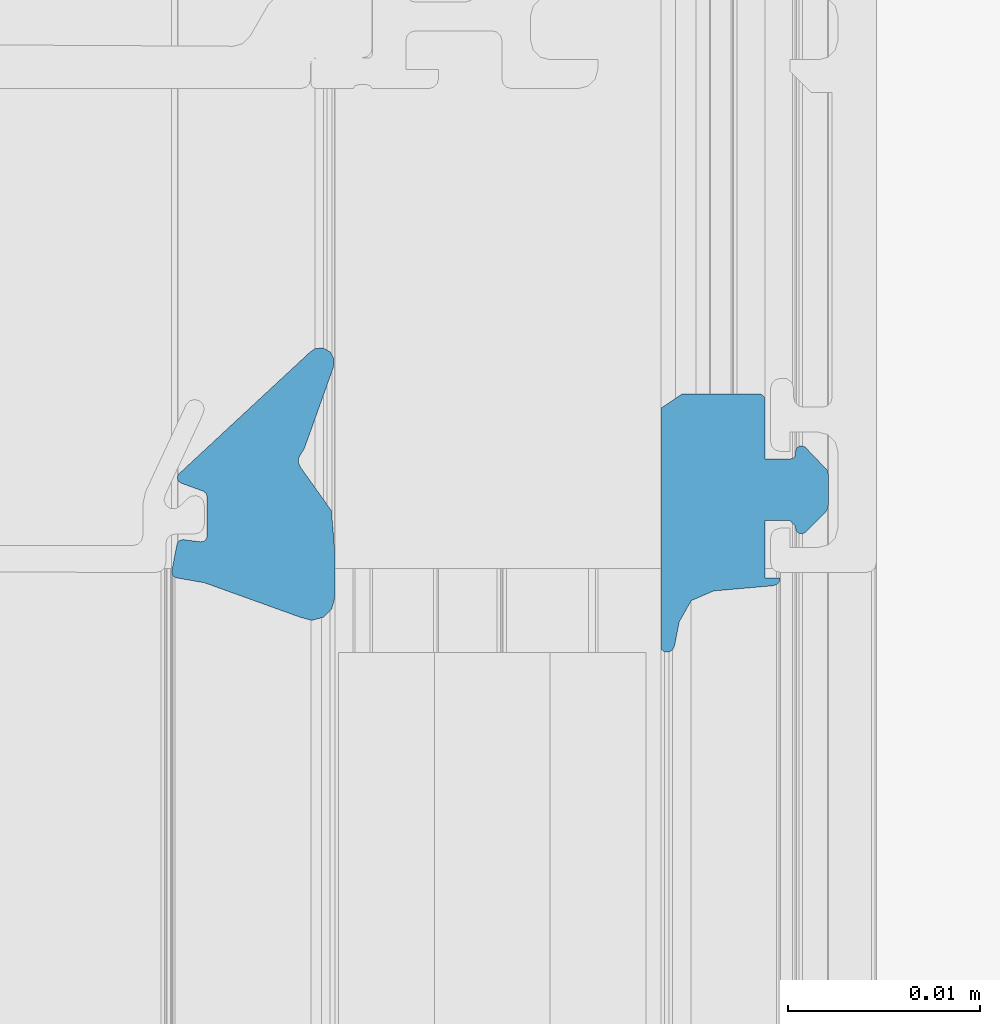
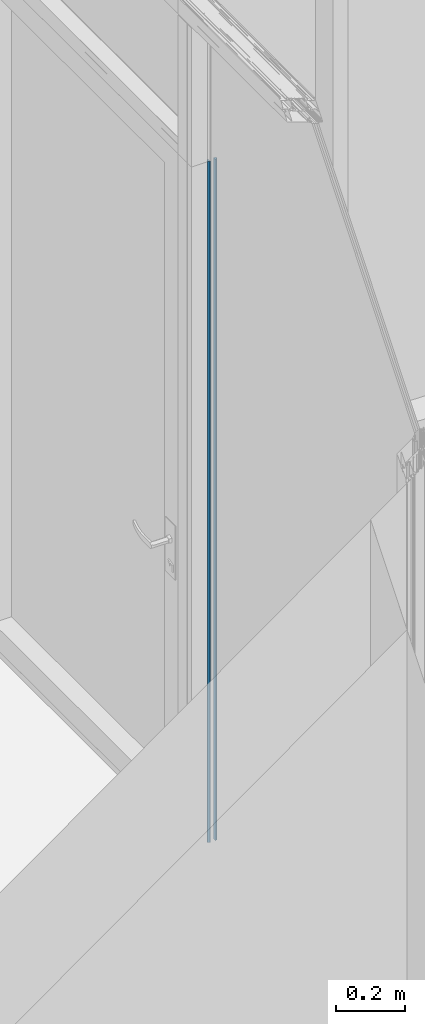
# One storey, part 16 of 62: 1 building element part, 2 elements without a shape of their own.
"""IFC2X3 building model written with IfcOpenShell, lengths in millimetres."""

from ifc_helpers import new_model, entity, si_unit, converted_unit, derived_unit, money_unit, direction, frame, origin_with_axes, place, context, subcontext, project, spatial, faceted_brep, source, transform, mapped, material, type_object, element, aggregate, save


model = new_model("IFC2X3")

# Units and contexts
model_context = context("Model", 3, precision=0.01, world=origin_with_axes(), true_north=direction((0.0, 1.0)))
body_context = subcontext(model_context, "Body", "Model", "MODEL_VIEW")
ifc_project = project(units=[si_unit("LENGTHUNIT", "METRE", prefix="MILLI"), si_unit("AREAUNIT", "SQUARE_METRE"), si_unit("VOLUMEUNIT", "CUBIC_METRE"), converted_unit("PLANEANGLEUNIT", "DEGREE", entity("IfcPlaneAngleMeasure", 0.0174532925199), si_unit("PLANEANGLEUNIT", "RADIAN"), dimensions=[0, 0, 0, 0, 0, 0, 0]), si_unit("SOLIDANGLEUNIT", "STERADIAN"), money_unit("EUR"), converted_unit("TIMEUNIT", "Year", entity("IfcTimeMeasure", 31556926.0), si_unit("TIMEUNIT", "SECOND"), dimensions=[0, 0, 1, 0, 0, 0, 0]), si_unit("MASSUNIT", "GRAM", prefix="KILO"), si_unit("THERMODYNAMICTEMPERATUREUNIT", "DEGREE_CELSIUS"), si_unit("LUMINOUSINTENSITYUNIT", "LUMEN"), si_unit("ENERGYUNIT", "JOULE", prefix="MEGA"), derived_unit("THERMALCONDUCTANCEUNIT", [(si_unit("POWERUNIT", "WATT"), 1), (si_unit("LENGTHUNIT", "METRE"), -1), (si_unit("THERMODYNAMICTEMPERATUREUNIT", "KELVIN"), -1)]), derived_unit("SPECIFICHEATCAPACITYUNIT", [(si_unit("ENERGYUNIT", "JOULE"), 1), (si_unit("MASSUNIT", "GRAM", prefix="KILO"), -1), (si_unit("THERMODYNAMICTEMPERATUREUNIT", "KELVIN"), -1)]), derived_unit("MASSDENSITYUNIT", [(si_unit("MASSUNIT", "GRAM", prefix="KILO"), 1), (si_unit("VOLUMEUNIT", "CUBIC_METRE"), -1)])], contexts=[model_context])

# Site, building, storey
site_placement = place(None, origin_with_axes())
site = spatial("IfcSite", under=ifc_project, at=site_placement, Name="Puškini 31, Narva", CompositionType="ELEMENT")
building_placement = place(site_placement, origin_with_axes())
building = spatial("IfcBuilding", under=site, at=building_placement, Name="Narva Riigigümnaasium", CompositionType="ELEMENT")
storey_placement = place(building_placement, frame((0.0, 0.0, 660.0), z_axis=(0.0, 0.0, 1.0), x_axis=(1.0, 0.0, 0.0)))
storey = spatial("IfcBuildingStorey", under=building, at=storey_placement, Name="2.korrus +0.66", CompositionType="ELEMENT", Elevation=660.0)

# Curtain wall, member, building element part
curtain_wall_type = type_object("IfcCurtainWallType", Name="Curtain Wall Type", PredefinedType="NOTDEFINED")
curtain_wall_placement = place(storey_placement, frame((34855.0128096, 223200.000065, -2.45869393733e-05), z_axis=(0.0, 0.0, 1.0), x_axis=(1.0, 0.0, 0.0)))
curtain_wall = element("IfcCurtainWall", 1, at=curtain_wall_placement, inside=storey, type_object=curtain_wall_type, Name="G-SKLF-50")
member_type = type_object("IfcMemberType", Name="82 x 45", PredefinedType="MULLION")
member_placement = place(curtain_wall_placement, frame((-0.00257308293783, -599.999999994, 0.0), z_axis=(0.0, 0.0, 1.0), x_axis=(4.28847155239e-06, 0.999999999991, 0.0)))
member = element("IfcMember", 2, at=member_placement, type_object=member_type, Name="G-SKLF-50-raam", ObjectType="MULLION")
aggregate(curtain_wall, [member])
ifc_material = material(Name="Membraan - Veekindel")
shared_shape = source(origin_with_axes(), body_context, "Body", "Brep", [
    faceted_brep([(72.7204882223, 15.0100099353, 0.0), (72.7204882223, 15.0100099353, 2400.00002459), (74.9898926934, 16.6230552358, 2400.00002459), (74.9898926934, 16.6230552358, 0.0), (72.5011668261, 14.8999349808, 0.0), (72.5011668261, 14.8999349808, 2400.00002459), (72.2558878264, 14.9074571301, 2400.00002459), (72.0437237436, 15.0307647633, 2400.00002459), (71.7536994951, 15.2121692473, 2400.00002459), (67.4982927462, 16.7341218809, 2400.00002459), (67.0740702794, 16.7580150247, 2400.00002459), (66.7049453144, 16.5475813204, 2400.00002459), (66.5093924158, 16.1703616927, 2400.00002459), (66.5501763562, 15.7474287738, 2400.00002459), (66.8142070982, 15.4145273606, 2400.00002459), (73.0645590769, 8.68581760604, 2400.00002459), (73.192689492, 8.61180126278, 2400.00002459), (73.3406152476, 8.60808734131, 2400.00002459), (73.4722984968, 8.67558063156, 2400.00002459), (73.5556584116, 8.79783833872, 2400.00002459), (73.9761212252, 9.95305042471, 2400.00002459), (74.0859560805, 10.096189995, 2400.00002459), (74.2580290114, 10.1504443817, 2400.00002459), (76.3123574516, 10.1504443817, 2400.00002459), (76.4731258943, 10.1037298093, 2400.00002459), (76.5838261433, 9.9781344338, 2400.00002459), (76.6099827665, 9.81277248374, 2400.00002459), (76.4957458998, 8.91024871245, 2400.00002459), (76.5142922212, 8.76250903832, 2400.00002459), (76.601588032, 8.64188392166, 2400.00002459), (76.7361285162, 8.57808865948, 2400.00002459), (78.1361285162, 8.30595622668, 2400.00002459), (78.2917480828, 8.3170330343, 2400.00002459), (78.4207620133, 8.4047573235, 2400.00002459), (78.4882789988, 8.54540440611, 2400.00002459), (78.7418652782, 10.0036443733, 2400.00002459), (80.5405112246, 15.001346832, 2400.00002459), (80.7012805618, 15.6006926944, 2400.00002459), (80.5411647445, 16.2002134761, 2400.00002459), (80.1029794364, 16.6395947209, 2400.00002459), (79.5038972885, 16.8013439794, 2400.00002459), (77.1927259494, 16.806401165, 2400.00002459), (77.1927259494, 16.806401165, 0.0), (79.5038972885, 16.8013439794, 0.0), (80.1029794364, 16.6395947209, 0.0), (80.5411647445, 16.2002134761, 0.0), (80.7012805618, 15.6006926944, 0.0), (80.5405112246, 15.001346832, 0.0), (78.7418652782, 10.0036443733, 0.0), (78.4882789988, 8.54540440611, 0.0), (78.4207620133, 8.4047573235, 0.0), (78.2917480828, 8.3170330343, 0.0), (78.1361285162, 8.30595622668, 0.0), (76.7361285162, 8.57808865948, 0.0), (76.601588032, 8.64188392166, 0.0), (76.5142922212, 8.76250903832, 0.0), (76.4957458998, 8.91024871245, 0.0), (76.6099827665, 9.81277248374, 0.0), (76.5838261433, 9.9781344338, 0.0), (76.4731258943, 10.1037298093, 0.0), (76.3123574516, 10.1504443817, 0.0), (74.2580290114, 10.1504443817, 0.0), (74.0859560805, 10.096189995, 0.0), (73.9761212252, 9.95305042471, 0.0), (73.5556584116, 8.79783833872, 0.0), (73.4722984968, 8.67558063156, 0.0), (73.3406152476, 8.60808734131, 0.0), (73.192689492, 8.61180126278, 0.0), (73.0645590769, 8.68581760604, 0.0), (66.8142070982, 15.4145273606, 0.0), (66.5501763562, 15.7474287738, 0.0), (66.5093924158, 16.1703616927, 0.0), (66.7049453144, 16.5475813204, 0.0), (67.0740702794, 16.7580150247, 0.0), (67.4982927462, 16.7341218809, 0.0), (71.7536994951, 15.2121692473, 0.0), (72.0437237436, 15.0307647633, 0.0), (72.2558878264, 14.9074571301, 0.0)], [[[0, 1, 2, 3]], [[4, 5, 1, 0]], [[1, 5, 6, 7, 8, 9, 10, 11, 12, 13, 14, 15, 16, 17, 18, 19, 20, 21, 22, 23, 24, 25, 26, 27, 28, 29, 30, 31, 32, 33, 34, 35, 36, 37, 38, 39, 40, 41, 2]], [[3, 2, 41, 42]], [[0, 3, 42, 43, 44, 45, 46, 47, 48, 49, 50, 51, 52, 53, 54, 55, 56, 57, 58, 59, 60, 61, 62, 63, 64, 65, 66, 67, 68, 69, 70, 71, 72, 73, 74, 75, 76, 77, 4]], [[77, 6, 5, 4]], [[76, 7, 6, 77]], [[75, 8, 7, 76]], [[74, 9, 8, 75]], [[73, 10, 9, 74]], [[72, 11, 10, 73]], [[71, 12, 11, 72]], [[70, 13, 12, 71]], [[69, 14, 13, 70]], [[68, 15, 14, 69]], [[67, 16, 15, 68]], [[66, 17, 16, 67]], [[65, 18, 17, 66]], [[64, 19, 18, 65]], [[63, 20, 19, 64]], [[62, 21, 20, 63]], [[61, 22, 21, 62]], [[60, 23, 22, 61]], [[59, 24, 23, 60]], [[58, 25, 24, 59]], [[57, 26, 25, 58]], [[56, 27, 26, 57]], [[55, 28, 27, 56]], [[54, 29, 28, 55]], [[53, 30, 29, 54]], [[52, 31, 30, 53]], [[51, 32, 31, 52]], [[50, 33, 32, 51]], [[49, 34, 33, 50]], [[48, 35, 34, 49]], [[47, 36, 35, 48]], [[46, 37, 36, 47]], [[45, 38, 37, 46]], [[44, 39, 38, 45]], [[43, 40, 39, 44]], [[42, 41, 40, 43]]]),
    faceted_brep([(71.6876987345, 41.3119145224, 0.0), (71.6876987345, 41.3119145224, 2400.00002459), (72.8904310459, 42.4618935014, 2400.00002459), (72.8904310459, 42.4618935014, 0.0), (71.6057623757, 41.1582990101, 0.0), (71.6057623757, 41.1582990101, 2400.00002459), (71.6229356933, 40.9850466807, 2400.00002459), (71.7334350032, 40.8505059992, 2400.00002459), (71.900046, 40.799988, 2400.00002459), (72.00004, 40.799988, 2400.00002459), (72.15004, 40.7597956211, 2400.00002459), (72.2598476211, 40.649988, 2400.00002459), (72.30004, 40.499988, 2400.00002459), (72.30004, 39.200012, 2400.00002459), (71.30004, 39.2000007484, 2400.00002459), (69.2000038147, 39.2000007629, 2400.00002459), (69.0500179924, 39.159812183, 2400.00002459), (68.9402207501, 39.0500149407, 2400.00002459), (68.9000321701, 38.9000291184, 2400.00002459), (68.8997554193, 34.9006000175, 2400.00002459), (69.647137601, 33.7902637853, 2400.00002459), (82.2108941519, 33.7902637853, 2400.00002459), (82.3423779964, 33.9722990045, 2400.00002459), (82.3536959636, 34.1965683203, 2400.00002459), (82.2412066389, 34.3909158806, 2400.00002459), (82.041102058, 34.4928127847, 2400.00002459), (80.7800222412, 34.7379988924, 2400.00002459), (79.6755028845, 35.3629012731, 2400.00002459), (79.1693613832, 36.5266395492, 2400.00002459), (78.9000324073, 39.6000097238, 2400.00002459), (78.8464370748, 39.8000230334, 2400.00002459), (78.7000161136, 39.9464425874, 2400.00002459), (78.5000022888, 40.0000359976, 2400.00002459), (78.5000022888, 39.2000007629, 2400.00002459), (76.5000210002, 39.200012, 2400.00002459), (75.500021, 39.200012, 2400.00002459), (75.500021, 40.499988, 2400.00002459), (75.800021, 40.799988, 2400.00002459), (75.9000173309, 40.799988, 2400.00002459), (76.0666568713, 40.8505228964, 2400.00002459), (76.1771585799, 40.9851032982, 2400.00002459), (76.1942964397, 41.1583915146, 2400.00002459), (76.1122970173, 41.3120098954, 2400.00002459), (75.0716106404, 42.353428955, 2400.00002459), (74.9093558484, 42.461906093, 2400.00002459), (74.717932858, 42.5, 2400.00002459), (73.0818844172, 42.5, 2400.00002459), (73.0818844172, 42.5, 0.0), (74.717932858, 42.5, 0.0), (74.9093558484, 42.461906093, 0.0), (75.0716106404, 42.353428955, 0.0), (76.1122970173, 41.3120098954, 0.0), (76.1942964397, 41.1583915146, 0.0), (76.1771585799, 40.9851032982, 0.0), (76.0666568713, 40.8505228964, 0.0), (75.9000173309, 40.799988, 0.0), (75.800021, 40.799988, 0.0), (75.500021, 40.499988, 0.0), (75.500021, 39.200012, 0.0), (76.5000210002, 39.200012, 0.0), (78.5000022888, 39.2000007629, 0.0), (78.5000022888, 40.0000359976, 0.0), (78.7000161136, 39.9464425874, 0.0), (78.8464370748, 39.8000230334, 0.0), (78.9000324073, 39.6000097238, 0.0), (79.1693613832, 36.5266395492, 0.0), (79.6755028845, 35.3629012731, 0.0), (80.7800222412, 34.7379988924, 0.0), (82.041102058, 34.4928127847, 0.0), (82.2412066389, 34.3909158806, 0.0), (82.3536959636, 34.1965683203, 0.0), (82.3423779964, 33.9722990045, 0.0), (82.2108941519, 33.7902637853, 0.0), (69.647137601, 33.7902637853, 0.0), (68.8997554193, 34.9006000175, 0.0), (68.9000321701, 38.9000291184, 0.0), (68.9402207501, 39.0500149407, 0.0), (69.0500179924, 39.159812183, 0.0), (69.2000038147, 39.2000007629, 0.0), (71.30004, 39.2000007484, 0.0), (72.30004, 39.200012, 0.0), (72.30004, 40.499988, 0.0), (72.2598476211, 40.649988, 0.0), (72.15004, 40.7597956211, 0.0), (72.00004, 40.799988, 0.0), (71.900046, 40.799988, 0.0), (71.7334350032, 40.8505059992, 0.0), (71.6229356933, 40.9850466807, 0.0)], [[[0, 1, 2, 3]], [[4, 5, 1, 0]], [[1, 5, 6, 7, 8, 9, 10, 11, 12, 13, 14, 15, 16, 17, 18, 19, 20, 21, 22, 23, 24, 25, 26, 27, 28, 29, 30, 31, 32, 33, 34, 35, 36, 37, 38, 39, 40, 41, 42, 43, 44, 45, 46, 2]], [[3, 2, 46, 47]], [[0, 3, 47, 48, 49, 50, 51, 52, 53, 54, 55, 56, 57, 58, 59, 60, 61, 62, 63, 64, 65, 66, 67, 68, 69, 70, 71, 72, 73, 74, 75, 76, 77, 78, 79, 80, 81, 82, 83, 84, 85, 86, 87, 4]], [[87, 6, 5, 4]], [[86, 7, 6, 87]], [[85, 8, 7, 86]], [[84, 9, 8, 85]], [[83, 10, 9, 84]], [[82, 11, 10, 83]], [[81, 12, 11, 82]], [[80, 13, 12, 81]], [[79, 14, 13, 80]], [[78, 15, 14, 79]], [[77, 16, 15, 78]], [[76, 17, 16, 77]], [[75, 18, 17, 76]], [[74, 19, 18, 75]], [[73, 20, 19, 74]], [[72, 21, 20, 73]], [[71, 22, 21, 72]], [[70, 23, 22, 71]], [[69, 24, 23, 70]], [[68, 25, 24, 69]], [[67, 26, 25, 68]], [[66, 27, 26, 67]], [[65, 28, 27, 66]], [[64, 29, 28, 65]], [[63, 30, 29, 64]], [[62, 31, 30, 63]], [[61, 32, 31, 62]], [[60, 33, 32, 61]], [[59, 34, 33, 60]], [[58, 35, 34, 59]], [[57, 36, 35, 58]], [[56, 37, 36, 57]], [[55, 38, 37, 56]], [[54, 39, 38, 55]], [[53, 40, 39, 54]], [[52, 41, 40, 53]], [[51, 42, 41, 52]], [[50, 43, 42, 51]], [[49, 44, 43, 50]], [[48, 45, 44, 49]], [[47, 46, 45, 48]]]),
])
building_element_part_placement = place(member_placement, origin_with_axes())
building_element_part = element("IfcBuildingElementPart", 3, at=building_element_part_placement, material=ifc_material, Name="Membraan - Veekindel", context=body_context, shape_type="MappedRepresentation", body=[
    mapped(shared_shape, transform((0.0, 0.0, 0.0), x_axis=(-1.0, 0.0, 0.0), y_axis=(0.0, -1.0, 0.0), z_axis=(0.0, 0.0, 1.0))),
])
aggregate(member, [building_element_part])

save(model, "model.ifc")
